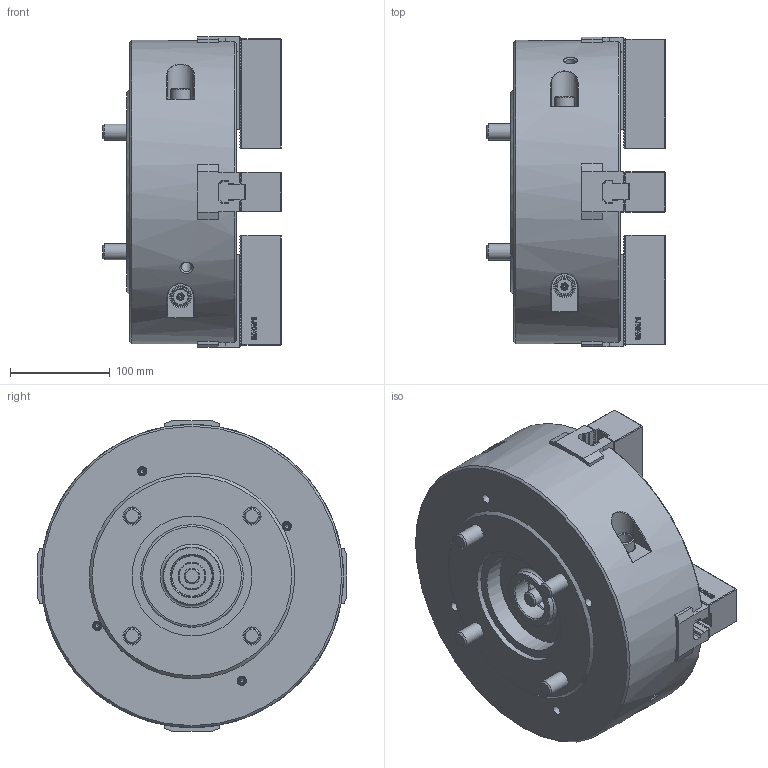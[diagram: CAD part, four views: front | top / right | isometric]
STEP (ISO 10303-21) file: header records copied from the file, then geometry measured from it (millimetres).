
FILE_DESCRIPTION (( 'STEP AP214' ), '1' );
FILE_NAME ('DT1_HW-12_OUTSIDE_VIEW_HUL.STEP', '2024-05-10T00:34:07', ( '' ), ( '' ), 'SwSTEP 2.0', 'SolidWorks 2022', '' );
FILE_SCHEMA (( 'AUTOMOTIVE_DESIGN' ));
Length unit declared in the file: millimetre
Products named in the file (10): DT1_HW-12_DN^DT1_HW-12_ﾃﾞﾌｫﾙﾄ; DT1_HW-12_DRAWSCREW^DT1_HW-12_ﾃﾞﾌｫﾙﾄ; DT1_HW-12_OUTSIDE_VIEW_HUL; DT1_HW-12_TNUT^DT1_HW-12_ﾃﾞﾌｫﾙﾄ; DT1_HW-12_SOFTJAW^DT1_HW-12_ﾃﾞﾌｫﾙﾄ; DT1_HW-12_M5x10^DT1_HW-12_ﾃﾞﾌｫﾙﾄ; DT1_HW-12_M16x115^DT1_HW-12_ﾃﾞﾌｫﾙﾄ; DT1_HW-12_BASE^DT1_HW-12_ﾃﾞﾌｫﾙﾄ; DT1_HW-12_M12x35^DT1_HW-12_ﾃﾞﾌｫﾙﾄ; DT1_HW-12_COVER^DT1_HW-12_ﾃﾞﾌｫﾙﾄ
Assembly tree (28 placements, depth 2):
  DT1_HW-12_OUTSIDE_VIEW_HUL
    DT1_HW-12_SOFTJAW^DT1_HW-12_ﾃﾞﾌｫﾙﾄ  x4
    DT1_HW-12_TNUT^DT1_HW-12_ﾃﾞﾌｫﾙﾄ  x4
    DT1_HW-12_COVER^DT1_HW-12_ﾃﾞﾌｫﾙﾄ
    DT1_HW-12_DRAWSCREW^DT1_HW-12_ﾃﾞﾌｫﾙﾄ
    DT1_HW-12_DN^DT1_HW-12_ﾃﾞﾌｫﾙﾄ
    DT1_HW-12_BASE^DT1_HW-12_ﾃﾞﾌｫﾙﾄ
    DT1_HW-12_M16x115^DT1_HW-12_ﾃﾞﾌｫﾙﾄ  x4
    DT1_HW-12_M12x35^DT1_HW-12_ﾃﾞﾌｫﾙﾄ  x8
    DT1_HW-12_M5x10^DT1_HW-12_ﾃﾞﾌｫﾙﾄ  x4
Bounding box: 179 x 310.62 x 310.98 mm (x, y, z)
Volume: 8201943.3 mm3; surface area: 591063.7 mm2
Topology: 28 solids, 38 shells, 4773 faces, 13403 edges, 8859 vertices
Faces by surface type: plane 3312, cylinder 760, bspline 387, cone 279, torus 31, sphere 4
Full cylindrical faces by diameter (mm): 2 x4, 4.2 x4, 5 x4, 5.5 x4, 6.8 x4, 8.72 x4, 9.5 x8, 10.2 x10, 12 x8, 13 x8, 13.27 x4, 13.835 x1, 14 x5, 15 x4, 16 x6, 17 x4, 18.27 x8, 19 x8, 19.6 x4, 20.5 x4, 24.33 x5, 25 x5, 28 x1, 40.376 x1, 42 x1, 44 x1, 58 x1, 103 x1, 120 x1, 304 x1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
Entity records: 111029 total; most frequent: CARTESIAN_POINT 32402, ORIENTED_EDGE 17198, DIRECTION 14356, EDGE_CURVE 8599, LINE 6602, VECTOR 6602, VERTEX_POINT 5791, AXIS2_PLACEMENT_3D 3877
